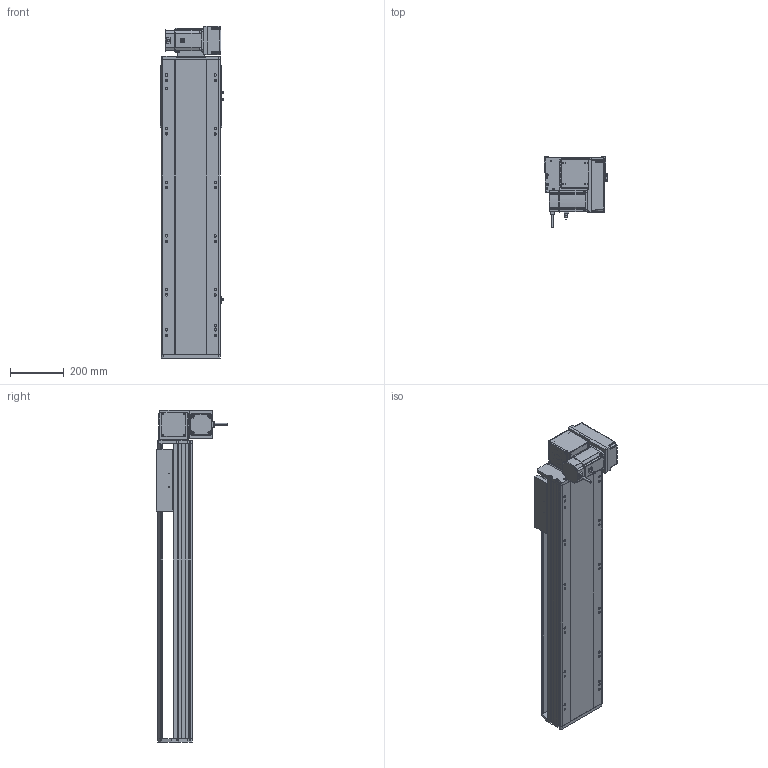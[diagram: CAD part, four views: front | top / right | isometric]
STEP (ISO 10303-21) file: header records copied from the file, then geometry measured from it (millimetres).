
FILE_DESCRIPTION (( 'STEP AP214' ), '1' );
FILE_NAME ('RTB22S-XX-750-RM-M75-C4.STEP', '2025-12-12T07:45:37', ( '' ), ( '' ), 'SwSTEP 2.0', 'SolidWorks 2018', '' );
FILE_SCHEMA (( 'AUTOMOTIVE_DESIGN' ));
Length unit declared in the file: millimetre
Products named in the file (14): RTB22S-L-011菁釱^RTB22S-XX-XX-RM-M75-C4; RTB22S-GY-008-M75--萇儂啣^RTB22S-RM-々湍釱蚾饜_RTB22S-XX-XX-RM-M75-C4; OMRON EE-SX672 传感器^RTB22S-XX-XX-RM-M75-C4; 750W萇儂^RTB22S-XX-XX-RM-M75-C4; RTB22S-XX-750-RM-M75-C4; RTB22S-GY-018P^RTB22S-RM-々湍釱蚾饜_RTB22S-XX-XX-RM-M75-C4; RTH22-GY-013外置感应片^RTB22S-XX-XX-RM-M75-C4; RTB22S-GY-005P^RTB22S-RM-々湍釱蚾饜_RTB22S-XX-XX-RM-M75-C4; RTB22S-GY-014--々湍釱^RTB22S-RM-々湍釱蚾饜_RTB22S-XX-XX-RM-M75-C4; RTB22S-GY-017P^RTB22S-RM-々湍釱蚾饜_RTB22S-XX-XX-RM-M75-C4; RTB22S-RM-々湍釱蚾饜^RTB22S-XX-XX-RM-M75-C4; RTB22S-GY-007奻裔^RTB22S-XX-XX-RM-M75-C4; RTB22S-L-004賑釱^RTB22S-XX-XX-RM-M75-C4; RTB22S-GY-001耜裔^RTB22S-XX-XX-RM-M75-C4
Assembly tree (16 placements, depth 3):
  RTB22S-XX-750-RM-M75-C4
    RTB22S-L-011菁釱^RTB22S-XX-XX-RM-M75-C4
    RTB22S-GY-001耜裔^RTB22S-XX-XX-RM-M75-C4
    750W萇儂^RTB22S-XX-XX-RM-M75-C4
    RTB22S-GY-007奻裔^RTB22S-XX-XX-RM-M75-C4
    RTB22S-L-004賑釱^RTB22S-XX-XX-RM-M75-C4
    RTH22-GY-013外置感应片^RTB22S-XX-XX-RM-M75-C4
    OMRON EE-SX672 传感器^RTB22S-XX-XX-RM-M75-C4  x3
    RTB22S-RM-々湍釱蚾饜^RTB22S-XX-XX-RM-M75-C4
      RTB22S-GY-014--々湍釱^RTB22S-RM-々湍釱蚾饜_RTB22S-XX-XX-RM-M75-C4
      RTB22S-GY-017P^RTB22S-RM-々湍釱蚾饜_RTB22S-XX-XX-RM-M75-C4  x2
      RTB22S-GY-005P^RTB22S-RM-々湍釱蚾饜_RTB22S-XX-XX-RM-M75-C4
      RTB22S-GY-008-M75--萇儂啣^RTB22S-RM-々湍釱蚾饜_RTB22S-XX-XX-RM-M75-C4
      RTB22S-GY-018P^RTB22S-RM-々湍釱蚾饜_RTB22S-XX-XX-RM-M75-C4
Bounding box: 238.5 x 264.7 x 1237.5 mm (x, y, z)
Volume: 18378065.8 mm3; surface area: 1924645.1 mm2
Topology: 15 solids, 15 shells, 1947 faces, 5286 edges, 3392 vertices
Faces by surface type: plane 911, cylinder 598, bspline 296, cone 130, sphere 8, torus 4
Entity records: 51452 total; most frequent: CARTESIAN_POINT 14876, ORIENTED_EDGE 7376, DIRECTION 7062, EDGE_CURVE 3688, AXIS2_PLACEMENT_3D 2478, VERTEX_POINT 2396, LINE 2106, VECTOR 2106
